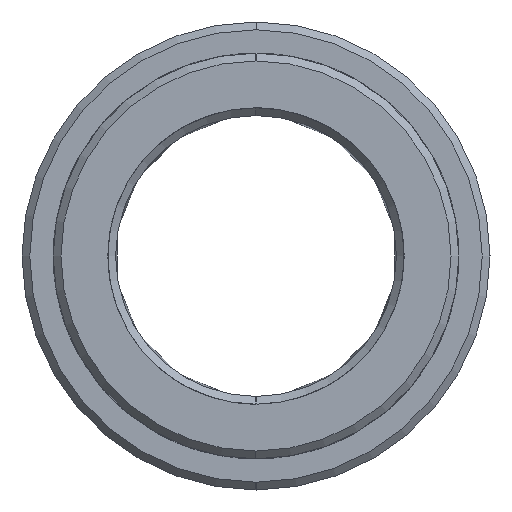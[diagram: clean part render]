
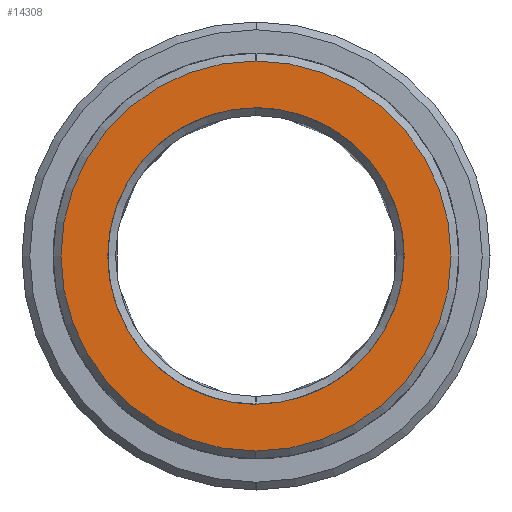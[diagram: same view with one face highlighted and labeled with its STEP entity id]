
A CAD part, left-side view. The second image highlights one B-rep face of the part: STEP entity #14308.
In plain terms, the highlighted planar face has unit normal (1, 0, 0).
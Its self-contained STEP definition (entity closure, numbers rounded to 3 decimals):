
#14225=CARTESIAN_POINT('Axis2P3D Location',(-16.,0.,0.)) ;
#14230=CARTESIAN_POINT('Axis2P3D Location',(-16.,0.,0.)) ;
#14234=CARTESIAN_POINT('Vertex',(-16.,0.,12.5)) ;
#14236=CARTESIAN_POINT('Vertex',(-16.,0.,-12.5)) ;
#14239=CARTESIAN_POINT('Axis2P3D Location',(-16.,0.,0.)) ;
#14249=CARTESIAN_POINT('Control Point',(-16.,0.,9.5)) ;
#14250=CARTESIAN_POINT('Control Point',(-16.,0.906,9.5)) ;
#14251=CARTESIAN_POINT('Control Point',(-16.,1.812,9.392)) ;
#14252=CARTESIAN_POINT('Control Point',(-16.,2.701,9.176)) ;
#14253=CARTESIAN_POINT('Control Point',(-16.,4.41,8.536)) ;
#14254=CARTESIAN_POINT('Control Point',(-16.,5.92,7.513)) ;
#14255=CARTESIAN_POINT('Control Point',(-16.,6.611,6.913)) ;
#14256=CARTESIAN_POINT('Control Point',(-16.,7.836,5.56)) ;
#14257=CARTESIAN_POINT('Control Point',(-16.,8.708,3.957)) ;
#14258=CARTESIAN_POINT('Control Point',(-16.,9.046,3.108)) ;
#14259=CARTESIAN_POINT('Control Point',(-16.,9.514,1.344)) ;
#14260=CARTESIAN_POINT('Control Point',(-16.,9.553,-0.481)) ;
#14261=CARTESIAN_POINT('Control Point',(-16.,9.463,-1.391)) ;
#14262=CARTESIAN_POINT('Control Point',(-16.,9.069,-3.173)) ;
#14263=CARTESIAN_POINT('Control Point',(-16.,8.267,-4.812)) ;
#14264=CARTESIAN_POINT('Control Point',(-16.,7.769,-5.579)) ;
#14265=CARTESIAN_POINT('Control Point',(-16.,6.601,-6.981)) ;
#14266=CARTESIAN_POINT('Control Point',(-16.,5.136,-8.069)) ;
#14267=CARTESIAN_POINT('Control Point',(-16.,4.342,-8.523)) ;
#14268=CARTESIAN_POINT('Control Point',(-16.,3.007,-9.086)) ;
#14269=CARTESIAN_POINT('Control Point',(-16.,1.596,-9.388)) ;
#14270=CARTESIAN_POINT('Control Point',(-16.,1.066,-9.463)) ;
#14271=CARTESIAN_POINT('Control Point',(-16.,0.533,-9.5)) ;
#14272=CARTESIAN_POINT('Control Point',(-16.,0.,-9.5)) ;
#14273=CARTESIAN_POINT('Vertex',(-16.,0.,9.5)) ;
#14275=CARTESIAN_POINT('Vertex',(-16.,0.,-9.5)) ;
#14279=CARTESIAN_POINT('Control Point',(-16.,0.,-9.5)) ;
#14280=CARTESIAN_POINT('Control Point',(-16.,-0.906,-9.5)) ;
#14281=CARTESIAN_POINT('Control Point',(-16.,-1.812,-9.392)) ;
#14282=CARTESIAN_POINT('Control Point',(-16.,-2.701,-9.176)) ;
#14283=CARTESIAN_POINT('Control Point',(-16.,-4.41,-8.536)) ;
#14284=CARTESIAN_POINT('Control Point',(-16.,-5.92,-7.513)) ;
#14285=CARTESIAN_POINT('Control Point',(-16.,-6.611,-6.913)) ;
#14286=CARTESIAN_POINT('Control Point',(-16.,-7.836,-5.56)) ;
#14287=CARTESIAN_POINT('Control Point',(-16.,-8.708,-3.957)) ;
#14288=CARTESIAN_POINT('Control Point',(-16.,-9.046,-3.108)) ;
#14289=CARTESIAN_POINT('Control Point',(-16.,-9.514,-1.344)) ;
#14290=CARTESIAN_POINT('Control Point',(-16.,-9.553,0.481)) ;
#14291=CARTESIAN_POINT('Control Point',(-16.,-9.463,1.391)) ;
#14292=CARTESIAN_POINT('Control Point',(-16.,-9.069,3.173)) ;
#14293=CARTESIAN_POINT('Control Point',(-16.,-8.267,4.812)) ;
#14294=CARTESIAN_POINT('Control Point',(-16.,-7.769,5.579)) ;
#14295=CARTESIAN_POINT('Control Point',(-16.,-6.601,6.981)) ;
#14296=CARTESIAN_POINT('Control Point',(-16.,-5.136,8.069)) ;
#14297=CARTESIAN_POINT('Control Point',(-16.,-4.342,8.523)) ;
#14298=CARTESIAN_POINT('Control Point',(-16.,-3.007,9.086)) ;
#14299=CARTESIAN_POINT('Control Point',(-16.,-1.596,9.388)) ;
#14300=CARTESIAN_POINT('Control Point',(-16.,-1.066,9.463)) ;
#14301=CARTESIAN_POINT('Control Point',(-16.,-0.533,9.5)) ;
#14302=CARTESIAN_POINT('Control Point',(-16.,0.,9.5)) ;
#14226=DIRECTION('Axis2P3D Direction',(1.,0.,0.)) ;
#14227=DIRECTION('Axis2P3D XDirection',(0.,1.,0.)) ;
#14231=DIRECTION('Axis2P3D Direction',(1.,0.,0.)) ;
#14240=DIRECTION('Axis2P3D Direction',(1.,0.,0.)) ;
#14228=AXIS2_PLACEMENT_3D('Plane Axis2P3D',#14225,#14226,#14227) ;
#14232=AXIS2_PLACEMENT_3D('Circle Axis2P3D',#14230,#14231,$) ;
#14241=AXIS2_PLACEMENT_3D('Circle Axis2P3D',#14239,#14240,$) ;
#14245=ORIENTED_EDGE('',*,*,#14238,.T.) ;
#14246=ORIENTED_EDGE('',*,*,#14243,.T.) ;
#14305=ORIENTED_EDGE('',*,*,#14277,.T.) ;
#14306=ORIENTED_EDGE('',*,*,#14303,.T.) ;
#14307=FACE_BOUND('',#14304,.T.) ;
#14308=ADVANCED_FACE('MANIFOLD_SOLID_BREP #9145',(#14247,#14307),#14229,.T.) ;
#14248=B_SPLINE_CURVE_WITH_KNOTS('',5,(#14249,#14250,#14251,#14252,#14253,#14254,#14255,#14256,#14257,#14258,#14259,#14260,#14261,#14262,#14263,#14264,#14265,#14266,#14267,#14268,#14269,#14270,#14271,#14272),.UNSPECIFIED.,.F.,.U.,(6,3,3,3,3,3,3,6),(0.,6.406,12.812,19.219,25.625,32.031,38.437,42.207),.UNSPECIFIED.) ;
#14278=B_SPLINE_CURVE_WITH_KNOTS('',5,(#14279,#14280,#14281,#14282,#14283,#14284,#14285,#14286,#14287,#14288,#14289,#14290,#14291,#14292,#14293,#14294,#14295,#14296,#14297,#14298,#14299,#14300,#14301,#14302),.UNSPECIFIED.,.F.,.U.,(6,3,3,3,3,3,3,6),(0.,6.406,12.812,19.219,25.625,32.031,38.437,42.207),.UNSPECIFIED.) ;
#14233=CIRCLE('generated circle',#14232,12.5) ;
#14242=CIRCLE('generated circle',#14241,12.5) ;
#14238=EDGE_CURVE('',#14235,#14237,#14233,.T.) ;
#14243=EDGE_CURVE('',#14237,#14235,#14242,.T.) ;
#14277=EDGE_CURVE('',#14274,#14276,#14248,.T.) ;
#14303=EDGE_CURVE('',#14276,#14274,#14278,.T.) ;
#14244=EDGE_LOOP('',(#14245,#14246)) ;
#14304=EDGE_LOOP('',(#14305,#14306)) ;
#14247=FACE_OUTER_BOUND('',#14244,.T.) ;
#14229=PLANE('Plane',#14228) ;
#14235=VERTEX_POINT('',#14234) ;
#14237=VERTEX_POINT('',#14236) ;
#14274=VERTEX_POINT('',#14273) ;
#14276=VERTEX_POINT('',#14275) ;
